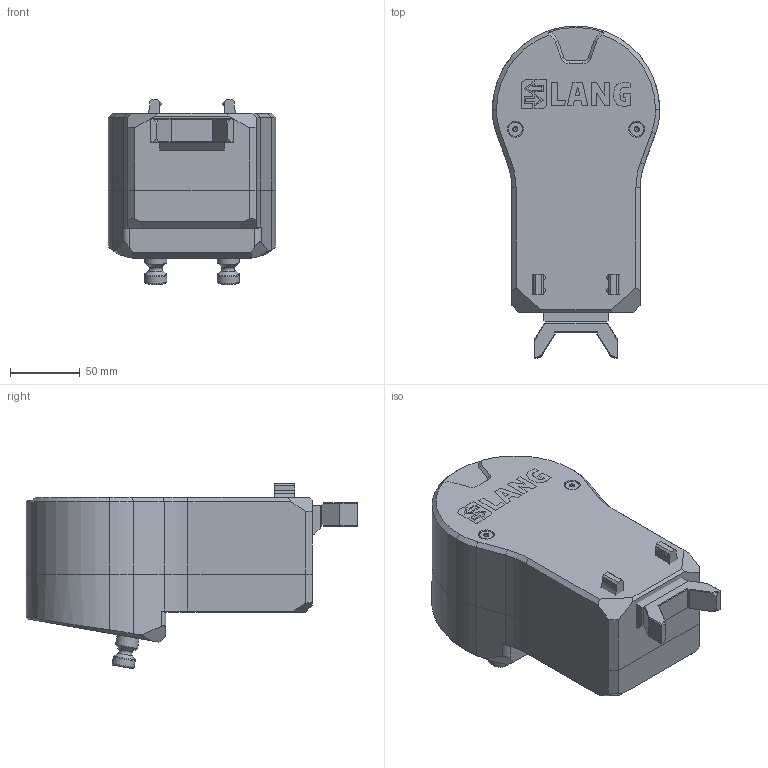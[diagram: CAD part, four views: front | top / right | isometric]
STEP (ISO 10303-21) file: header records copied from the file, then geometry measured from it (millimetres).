
FILE_DESCRIPTION (( 'STEP AP214' ), '1' );
FILE_NAME ('62900.STEP', '2025-09-26T11:47:17', ( '' ), ( '' ), 'SwSTEP 2.0', 'SolidWorks 2021', '' );
FILE_SCHEMA (( 'AUTOMOTIVE_DESIGN' ));
Length unit declared in the file: millimetre
Products named in the file (1): 62900
Bounding box: 120 x 238 x 132.77 mm (x, y, z)
Volume: 1830740 mm3; surface area: 191693.6 mm2
Topology: 29 solids, 41 shells, 999 faces, 2376 edges, 1491 vertices
Faces by surface type: plane 553, cylinder 220, cone 143, bspline 73, torus 10
Full cylindrical faces by diameter (mm): 2.5 x12, 3 x4, 3.4 x8, 4.5 x1, 5 x2, 5.006 x1, 5.5 x2, 6 x4, 6.8 x4, 8 x4, 10 x2, 12 x2, 12.006 x2, 13 x4, 14 x4, 16 x4
Entity records: 41205 total; most frequent: CARTESIAN_POINT 8168, DIRECTION 4448, ORIENTED_EDGE 4224, EDGE_CURVE 2112, AXIS2_PLACEMENT_3D 1559, VERTEX_POINT 1432, VECTOR 1330, LINE 1330
